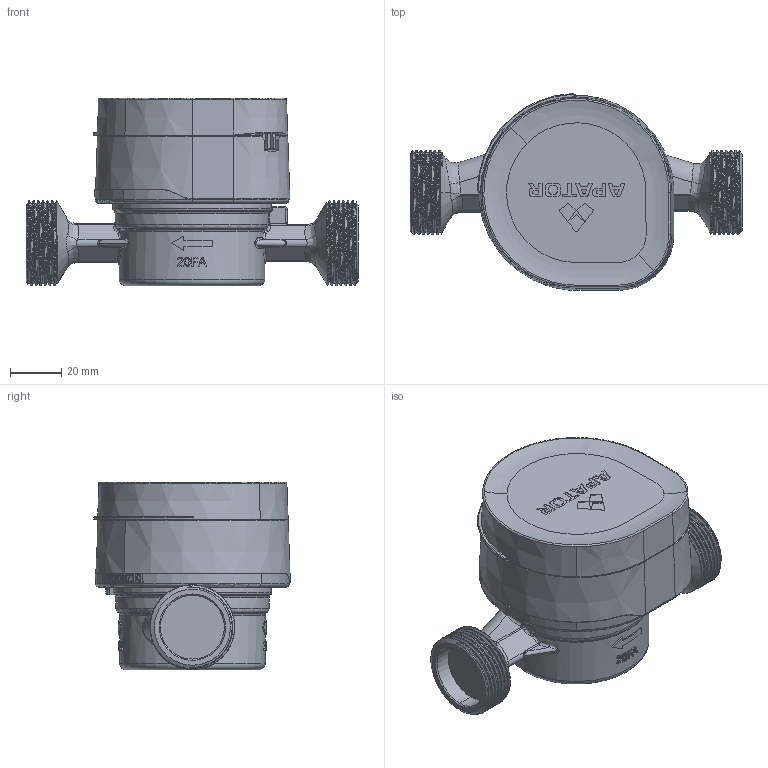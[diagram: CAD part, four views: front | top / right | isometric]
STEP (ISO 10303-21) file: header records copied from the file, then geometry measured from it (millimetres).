
FILE_DESCRIPTION (( 'STEP AP214' ), '1' );
FILE_NAME ('JS2,5-G1-05.STEP', '2022-09-14T10:57:14', ( '' ), ( '' ), 'SwSTEP 2.0', 'SolidWorks 2019', '' );
FILE_SCHEMA (( 'AUTOMOTIVE_DESIGN' ));
Length unit declared in the file: millimetre
Products named in the file (10): Part-3118; JS2,5-G1-05; Part-3117; 9004-750201; js2,5g1; Part-3116; szklanka; 9004-750202_zagi﹖a; Assembly-1108; Liczyd³o
Assembly tree (9 placements, depth 3):
  JS2,5-G1-05
    js2,5g1
    Liczyd³o
    Assembly-1108
      9004-750201
      9004-750202_zagi﹖a
    Part-3118
    Part-3117
    Part-3116
    szklanka
Bounding box: 130 x 77.02 x 73.47 mm (x, y, z)
Volume: 255661.4 mm3; surface area: 100776.9 mm2
Topology: 9 solids, 18 shells, 2602 faces, 7156 edges, 4664 vertices
Faces by surface type: plane 1137, bspline 573, cylinder 511, cone 257, torus 105, sphere 19
Entity records: 151896 total; most frequent: CARTESIAN_POINT 75083, ORIENTED_EDGE 14270, DIRECTION 10441, EDGE_CURVE 7135, VERTEX_POINT 4658, AXIS2_PLACEMENT_3D 3774, LINE 2893, VECTOR 2893
